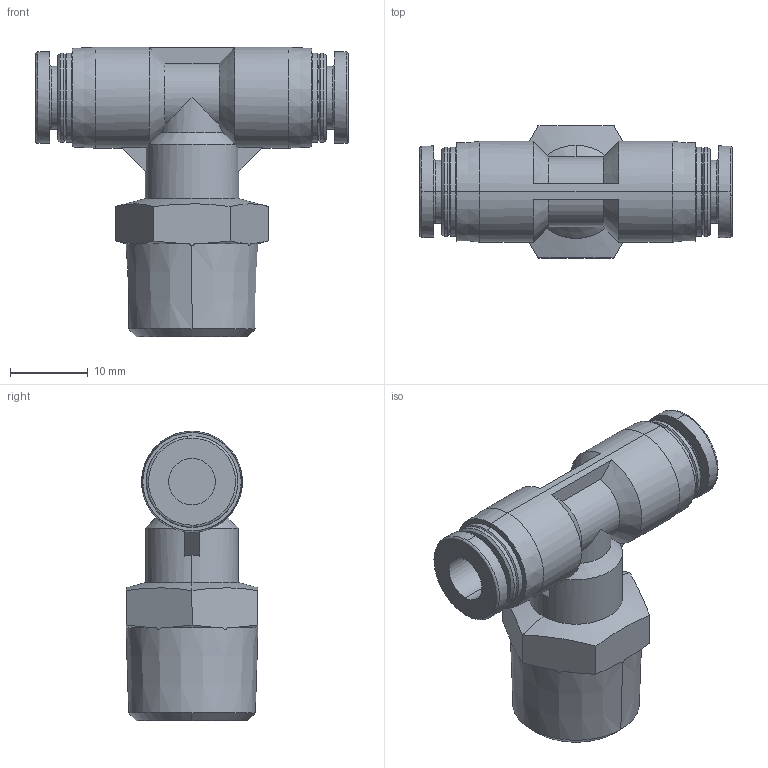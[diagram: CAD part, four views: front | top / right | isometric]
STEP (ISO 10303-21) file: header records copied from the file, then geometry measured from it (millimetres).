
FILE_DESCRIPTION (( 'STEP AP214' ), '1' );
FILE_NAME ('APT6-03.STEP', '2019-12-05T06:43:13', ( '微软用户' ), ( '微软中国' ), 'SwSTEP 2.0', 'SolidWorks 2016', '' );
FILE_SCHEMA (( 'AUTOMOTIVE_DESIGN' ));
Length unit declared in the file: millimetre
Products named in the file (1): APT6-03
Bounding box: 40.3 x 17 x 37.3 mm (x, y, z)
Volume: 8354.9 mm3; surface area: 4199.2 mm2
Topology: 1 solids, 1 shells, 105 faces, 258 edges, 163 vertices
Faces by surface type: cone 44, cylinder 28, plane 25, bspline 8
Entity records: 3571 total; most frequent: CARTESIAN_POINT 1151, ORIENTED_EDGE 516, DIRECTION 493, EDGE_CURVE 258, AXIS2_PLACEMENT_3D 207, VERTEX_POINT 163, EDGE_LOOP 113, CIRCLE 109
